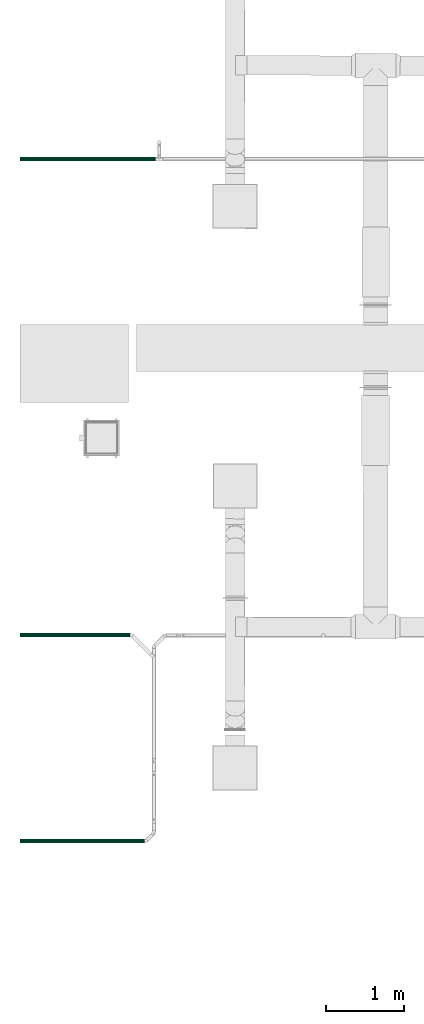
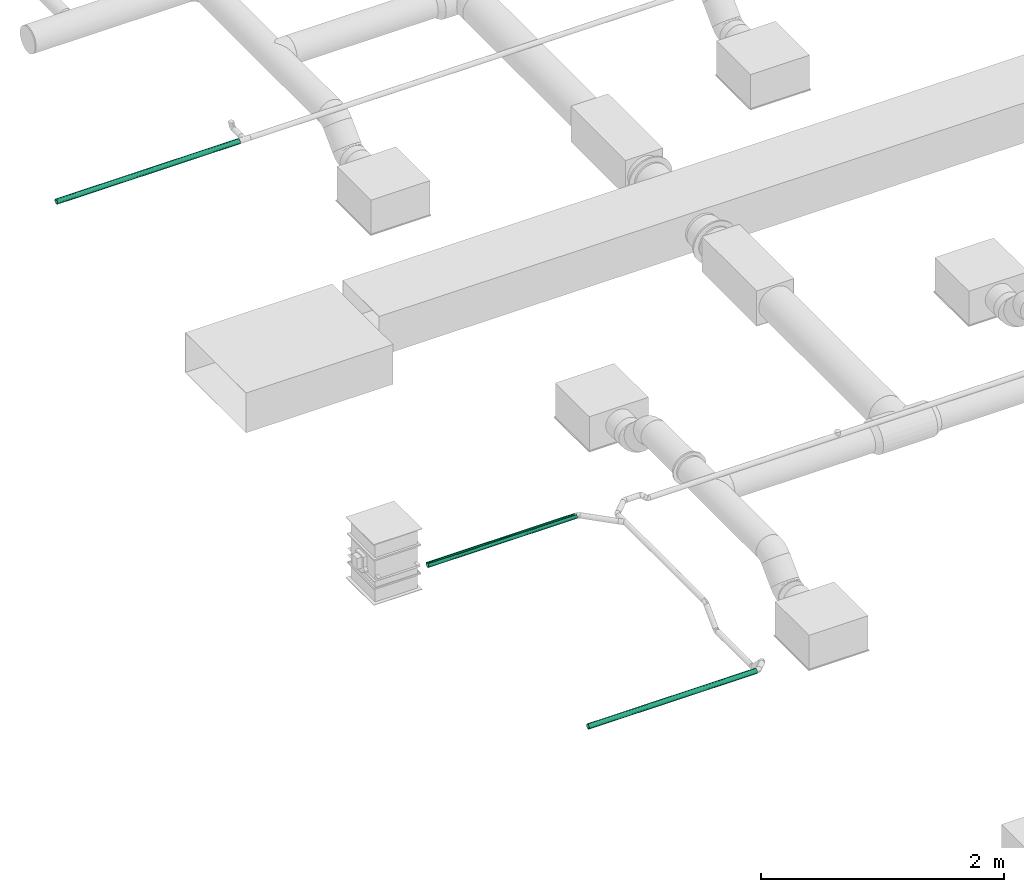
# One storey, part 51 of 63: 3 flow segments.
"""IFC2X3 building model written with IfcOpenShell, lengths in millimetres."""

from ifc_helpers import new_model, entity, si_unit, converted_unit, derived_unit, direction, frame, place, context, subcontext, project, spatial, faceted_brep, type_object, element, save


model = new_model("IFC2X3")

# Units and contexts
model_context = context("Model", 3, precision=0.01, world=frame((0.0, 4.29681676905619e-09, 0.0)), true_north=direction((4.01073788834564e-13, 1.0)))
plan_context = context("Plan", 3, precision=0.01, world=frame((0.0, 4.29681676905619e-09, 0.0)), true_north=direction((4.01073788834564e-13, 1.0)))
body_context = subcontext(model_context, "Body", "Model", "MODEL_VIEW")
ifc_project = project(units=[converted_unit("PLANEANGLEUNIT", "DEGREE", entity("IfcPositiveLengthMeasure", 0.0174532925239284), si_unit("PLANEANGLEUNIT", "RADIAN"), dimensions=[0, 0, 0, 0, 0, 0, 0]), si_unit("AREAUNIT", "SQUARE_METRE"), si_unit("LENGTHUNIT", "METRE", prefix="MILLI"), si_unit("MASSUNIT", "GRAM", prefix="KILO"), si_unit("POWERUNIT", "WATT"), si_unit("PRESSUREUNIT", "PASCAL"), si_unit("FORCEUNIT", "NEWTON", prefix="KILO"), si_unit("ELECTRICVOLTAGEUNIT", "VOLT"), si_unit("ELECTRICCURRENTUNIT", "AMPERE"), si_unit("THERMODYNAMICTEMPERATUREUNIT", "DEGREE_CELSIUS"), si_unit("TIMEUNIT", "SECOND"), si_unit("VOLUMEUNIT", "CUBIC_METRE"), derived_unit("LINEARVELOCITYUNIT", [(si_unit("LENGTHUNIT", "METRE"), 1), (si_unit("TIMEUNIT", "SECOND"), -1)]), derived_unit("VOLUMETRICFLOWRATEUNIT", [(si_unit("VOLUMEUNIT", "CUBIC_METRE"), 1), (si_unit("TIMEUNIT", "SECOND"), -1)]), derived_unit("THERMALTRANSMITTANCEUNIT", [(si_unit("POWERUNIT", "WATT"), 1), (si_unit("THERMODYNAMICTEMPERATUREUNIT", "KELVIN"), -1), (si_unit("AREAUNIT", "SQUARE_METRE"), -1)]), derived_unit("SOUNDPRESSUREUNIT", [(si_unit("PRESSUREUNIT", "PASCAL"), 1)])], contexts=[model_context, plan_context])

# Site, building, storey
site_placement = place(None, frame((0.0, -4.29681676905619e-09, 0.0), z_axis=(0.0, 0.0, 1.0), x_axis=(1.0, 0.0, 0.0)))
site = spatial("IfcSite", under=ifc_project, at=site_placement, CompositionType="ELEMENT")
building_placement = place(site_placement, frame((0.0, 4.29681676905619e-09, 0.0), z_axis=(0.0, 0.0, 1.0), x_axis=(1.0, 0.0, 0.0)))
building = spatial("IfcBuilding", under=site, at=building_placement, Name="mc-building", CompositionType="ELEMENT")
storey_placement = place(building_placement, frame((0.0, 0.0, 210900.0), z_axis=(0.0, 0.0, 1.0), x_axis=(1.0, 0.0, 0.0)))
storey = spatial("IfcBuildingStorey", under=building, at=storey_placement, Name="Nivå F", CompositionType="ELEMENT", Elevation=210900.0)

# Flow segments
duct_segment_type = type_object("IfcDuctSegmentType", Name="Sirkulær kanal", PredefinedType="RIGIDSEGMENT")
flow_segment_1_placement = place(storey_placement, frame((522280.0, 458590.0, 4425.0), z_axis=(0.0, 0.0, 1.0), x_axis=(-1.0, 0.0, 0.0)))
element("IfcFlowSegment", 1, at=flow_segment_1_placement, inside=storey, type_object=duct_segment_type, Name="Sirkulær kanal", context=body_context, shape_type="Brep", body=[
    faceted_brep([(1735.0124999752, 23.0, 0.0), (1735.0124999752, 22.6505783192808, -3.9939080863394), (0.0, 22.6505783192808, -3.9939080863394), (0.0, 23.0, 0.0), (1735.0124999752, 21.6129302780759, -7.8664632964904), (0.0, 21.6129302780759, -7.8664632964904), (1735.0124999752, 19.9185842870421, -11.5), (0.0, 19.9185842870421, -11.5), (1735.0124999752, 17.6190221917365, -14.7841150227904), (0.0, 17.6190221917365, -14.7841150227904), (1735.0124999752, 14.7841150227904, -17.6190221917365), (0.0, 14.7841150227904, -17.6190221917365), (1735.0124999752, 11.5, -19.9185842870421), (0.0, 11.5, -19.9185842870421), (1735.0124999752, 7.86646329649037, -21.6129302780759), (0.0, 7.86646329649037, -21.6129302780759), (1735.0124999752, 3.99390808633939, -22.6505783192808), (0.0, 3.99390808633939, -22.6505783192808), (1735.0124999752, -4.22503145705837e-15, -23.0), (0.0, -4.22503145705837e-15, -23.0), (1735.0124999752, -3.9939080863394, -22.6505783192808), (0.0, -3.9939080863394, -22.6505783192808), (1735.0124999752, -7.8664632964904, -21.6129302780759), (0.0, -7.8664632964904, -21.6129302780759), (1735.0124999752, -11.5, -19.9185842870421), (0.0, -11.5, -19.9185842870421), (1735.0124999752, -14.7841150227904, -17.6190221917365), (0.0, -14.7841150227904, -17.6190221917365), (1735.0124999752, -17.6190221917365, -14.7841150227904), (0.0, -17.6190221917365, -14.7841150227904), (1735.0124999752, -19.9185842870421, -11.5), (0.0, -19.9185842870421, -11.5), (1735.0124999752, -21.6129302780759, -7.86646329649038), (0.0, -21.6129302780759, -7.86646329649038), (1735.0124999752, -22.6505783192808, -3.99390808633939), (0.0, -22.6505783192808, -3.99390808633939), (1735.0124999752, -23.0, 2.81668763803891e-15), (0.0, -23.0, 2.81668763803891e-15), (1735.0124999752, -22.6505783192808, 3.99390808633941), (0.0, -22.6505783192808, 3.99390808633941), (1735.0124999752, -21.6129302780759, 7.86646329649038), (0.0, -21.6129302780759, 7.86646329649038), (1735.0124999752, -19.9185842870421, 11.5), (0.0, -19.9185842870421, 11.5), (1735.0124999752, -17.6190221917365, 14.7841150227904), (0.0, -17.6190221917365, 14.7841150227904), (1735.0124999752, -14.7841150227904, 17.6190221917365), (0.0, -14.7841150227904, 17.6190221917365), (1735.0124999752, -11.5, 19.9185842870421), (0.0, -11.5, 19.9185842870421), (1735.0124999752, -7.86646329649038, 21.6129302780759), (0.0, -7.86646329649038, 21.6129302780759), (1735.0124999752, -3.9939080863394, 22.6505783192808), (0.0, -3.9939080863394, 22.6505783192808), (1735.0124999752, 1.40834381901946e-15, 23.0), (0.0, 1.40834381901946e-15, 23.0), (1735.0124999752, 3.9939080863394, 22.6505783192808), (0.0, 3.9939080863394, 22.6505783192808), (1735.0124999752, 7.86646329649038, 21.6129302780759), (0.0, 7.86646329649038, 21.6129302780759), (1735.0124999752, 11.5, 19.9185842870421), (0.0, 11.5, 19.9185842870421), (1735.0124999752, 14.7841150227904, 17.6190221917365), (0.0, 14.7841150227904, 17.6190221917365), (1735.0124999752, 17.6190221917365, 14.7841150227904), (0.0, 17.6190221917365, 14.7841150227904), (1735.0124999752, 19.9185842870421, 11.5), (0.0, 19.9185842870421, 11.5), (1735.0124999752, 21.6129302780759, 7.86646329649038), (0.0, 21.6129302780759, 7.86646329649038), (1735.0124999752, 22.6505783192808, 3.9939080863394), (0.0, 22.6505783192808, 3.9939080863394), (1735.0124999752, 24.6201938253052, -4.34120444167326), (1735.0124999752, 25.0, 0.0), (0.0, 25.0, 0.0), (0.0, 24.6201938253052, -4.34120444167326), (1735.0124999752, 24.6201938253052, 4.34120444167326), (0.0, 24.6201938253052, 4.34120444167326), (1735.0124999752, 23.4923155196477, 8.55050358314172), (0.0, 23.4923155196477, 8.55050358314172), (1735.0124999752, 21.650635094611, 12.5), (0.0, 21.650635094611, 12.5), (1735.0124999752, 19.1511110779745, 16.0696902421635), (0.0, 19.1511110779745, 16.0696902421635), (1735.0124999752, 16.0696902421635, 19.1511110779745), (0.0, 16.0696902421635, 19.1511110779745), (1735.0124999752, 12.5, 21.650635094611), (0.0, 12.5, 21.650635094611), (1735.0124999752, 8.55050358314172, 23.4923155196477), (0.0, 8.55050358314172, 23.4923155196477), (1735.0124999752, 4.34120444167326, 24.6201938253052), (0.0, 4.34120444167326, 24.6201938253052), (1735.0124999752, 1.53080849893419e-15, 25.0), (0.0, 1.53080849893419e-15, 25.0), (1735.0124999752, -4.34120444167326, 24.6201938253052), (0.0, -4.34120444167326, 24.6201938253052), (1735.0124999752, -8.55050358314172, 23.4923155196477), (0.0, -8.55050358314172, 23.4923155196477), (1735.0124999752, -12.5, 21.650635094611), (0.0, -12.5, 21.650635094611), (1735.0124999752, -16.0696902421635, 19.1511110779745), (0.0, -16.0696902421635, 19.1511110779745), (1735.0124999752, -19.1511110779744, 16.0696902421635), (0.0, -19.1511110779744, 16.0696902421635), (1735.0124999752, -21.650635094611, 12.5), (0.0, -21.650635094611, 12.5), (1735.0124999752, -23.4923155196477, 8.55050358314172), (0.0, -23.4923155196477, 8.55050358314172), (1735.0124999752, -24.6201938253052, 4.34120444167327), (0.0, -24.6201938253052, 4.34120444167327), (1735.0124999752, -25.0, 3.06161699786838e-15), (0.0, -25.0, 3.06161699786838e-15), (1735.0124999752, -24.6201938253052, -4.34120444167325), (0.0, -24.6201938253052, -4.34120444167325), (1735.0124999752, -23.4923155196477, -8.55050358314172), (0.0, -23.4923155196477, -8.55050358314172), (1735.0124999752, -21.650635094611, -12.5), (0.0, -21.650635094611, -12.5), (1735.0124999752, -19.1511110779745, -16.0696902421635), (0.0, -19.1511110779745, -16.0696902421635), (1735.0124999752, -16.0696902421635, -19.1511110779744), (0.0, -16.0696902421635, -19.1511110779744), (1735.0124999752, -12.5, -21.650635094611), (0.0, -12.5, -21.650635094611), (1735.0124999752, -8.55050358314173, -23.4923155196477), (0.0, -8.55050358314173, -23.4923155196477), (1735.0124999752, -4.34120444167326, -24.6201938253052), (0.0, -4.34120444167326, -24.6201938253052), (1735.0124999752, -4.59242549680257e-15, -25.0), (0.0, -4.59242549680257e-15, -25.0), (1735.0124999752, 4.34120444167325, -24.6201938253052), (0.0, 4.34120444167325, -24.6201938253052), (1735.0124999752, 8.5505035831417, -23.4923155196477), (0.0, 8.5505035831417, -23.4923155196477), (1735.0124999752, 12.5, -21.650635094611), (0.0, 12.5, -21.650635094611), (1735.0124999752, 16.0696902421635, -19.1511110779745), (0.0, 16.0696902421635, -19.1511110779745), (1735.0124999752, 19.1511110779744, -16.0696902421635), (0.0, 19.1511110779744, -16.0696902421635), (1735.0124999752, 21.650635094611, -12.5), (0.0, 21.650635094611, -12.5), (1735.0124999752, 23.4923155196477, -8.55050358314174), (0.0, 23.4923155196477, -8.55050358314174)], [[[0, 1, 2, 3]], [[1, 4, 5, 2]], [[4, 6, 7, 5]], [[6, 8, 9, 7]], [[8, 10, 11, 9]], [[10, 12, 13, 11]], [[12, 14, 15, 13]], [[14, 16, 17, 15]], [[16, 18, 19, 17]], [[18, 20, 21, 19]], [[20, 22, 23, 21]], [[22, 24, 25, 23]], [[24, 26, 27, 25]], [[26, 28, 29, 27]], [[28, 30, 31, 29]], [[30, 32, 33, 31]], [[32, 34, 35, 33]], [[34, 36, 37, 35]], [[36, 38, 39, 37]], [[38, 40, 41, 39]], [[40, 42, 43, 41]], [[42, 44, 45, 43]], [[44, 46, 47, 45]], [[46, 48, 49, 47]], [[48, 50, 51, 49]], [[50, 52, 53, 51]], [[52, 54, 55, 53]], [[54, 56, 57, 55]], [[56, 58, 59, 57]], [[58, 60, 61, 59]], [[60, 62, 63, 61]], [[62, 64, 65, 63]], [[64, 66, 67, 65]], [[66, 68, 69, 67]], [[68, 70, 71, 69]], [[70, 0, 3, 71]], [[72, 73, 74, 75]], [[73, 76, 77, 74]], [[76, 78, 79, 77]], [[78, 80, 81, 79]], [[80, 82, 83, 81]], [[82, 84, 85, 83]], [[84, 86, 87, 85]], [[86, 88, 89, 87]], [[88, 90, 91, 89]], [[90, 92, 93, 91]], [[92, 94, 95, 93]], [[94, 96, 97, 95]], [[96, 98, 99, 97]], [[98, 100, 101, 99]], [[100, 102, 103, 101]], [[102, 104, 105, 103]], [[104, 106, 107, 105]], [[106, 108, 109, 107]], [[108, 110, 111, 109]], [[110, 112, 113, 111]], [[112, 114, 115, 113]], [[114, 116, 117, 115]], [[116, 118, 119, 117]], [[118, 120, 121, 119]], [[120, 122, 123, 121]], [[122, 124, 125, 123]], [[124, 126, 127, 125]], [[126, 128, 129, 127]], [[128, 130, 131, 129]], [[130, 132, 133, 131]], [[132, 134, 135, 133]], [[134, 136, 137, 135]], [[136, 138, 139, 137]], [[138, 140, 141, 139]], [[140, 142, 143, 141]], [[142, 72, 75, 143]], [[75, 74, 77, 79, 81, 83, 85, 87, 89, 91, 93, 95, 97, 99, 101, 103, 105, 107, 109, 111, 113, 115, 117, 119, 121, 123, 125, 127, 129, 131, 133, 135, 137, 139, 141, 143], [3, 2, 5, 7, 9, 11, 13, 15, 17, 19, 21, 23, 25, 27, 29, 31, 33, 35, 37, 39, 41, 43, 45, 47, 49, 51, 53, 55, 57, 59, 61, 63, 65, 67, 69, 71]], [[142, 140, 138, 136, 134, 132, 130, 128, 126, 124, 122, 120, 118, 116, 114, 112, 110, 108, 106, 104, 102, 100, 98, 96, 94, 92, 90, 88, 86, 84, 82, 80, 78, 76, 73, 72], [70, 68, 66, 64, 62, 60, 58, 56, 54, 52, 50, 48, 46, 44, 42, 40, 38, 36, 34, 32, 30, 28, 26, 24, 22, 20, 18, 16, 14, 12, 10, 8, 6, 4, 1, 0]]], orient=[[False], [False], [False], [False], [False], [False], [False], [False], [False], [False], [False], [False], [False], [False], [False], [False], [False], [False], [False], [False], [False], [False], [False], [False], [False], [False], [False], [False], [False], [False], [False], [False], [False], [False], [False], [False], [False], [False], [False], [False], [False], [False], [False], [False], [False], [False], [False], [False], [False], [False], [False], [False], [False], [False], [False], [False], [False], [False], [False], [False], [False], [False], [False], [False], [False], [False], [False], [False], [False], [False], [False], [False], [False, False], [False, False]]),
])
flow_segment_2_placement = place(storey_placement, frame((519215.74559, 452490.0, 4480.0), z_axis=(0.0, 0.0, 1.0), x_axis=(1.0, 0.0, 0.0)))
element("IfcFlowSegment", 2, at=flow_segment_2_placement, inside=storey, type_object=duct_segment_type, Name="Sirkulær kanal", context=body_context, shape_type="Brep", body=[
    faceted_brep([(1329.24191002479, 22.6505783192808, -3.9939080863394), (1329.24191002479, 23.0, 0.0), (2739.3, 23.0, 0.0), (2739.3, 22.6505783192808, -3.9939080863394), (1329.24191002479, 21.6129302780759, -7.8664632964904), (2739.3, 21.6129302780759, -7.8664632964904), (1329.24191002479, 19.9185842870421, -11.5), (2739.3, 19.9185842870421, -11.5), (1329.24191002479, 17.6190221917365, -14.7841150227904), (2739.3, 17.6190221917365, -14.7841150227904), (1329.24191002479, 14.7841150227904, -17.6190221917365), (2739.3, 14.7841150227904, -17.6190221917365), (1329.24191002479, 11.5, -19.9185842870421), (2739.3, 11.5, -19.9185842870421), (1329.24191002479, 7.86646329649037, -21.6129302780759), (2739.3, 7.86646329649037, -21.6129302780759), (1329.24191002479, 3.99390808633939, -22.6505783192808), (2739.3, 3.99390808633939, -22.6505783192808), (1329.24191002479, -4.22503145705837e-15, -23.0), (2739.3, -4.22503145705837e-15, -23.0), (1329.24191002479, -3.9939080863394, -22.6505783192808), (2739.3, -3.9939080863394, -22.6505783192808), (1329.24191002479, -7.8664632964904, -21.6129302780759), (2739.3, -7.8664632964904, -21.6129302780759), (1329.24191002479, -11.5, -19.9185842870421), (2739.3, -11.5, -19.9185842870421), (1329.24191002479, -14.7841150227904, -17.6190221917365), (2739.3, -14.7841150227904, -17.6190221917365), (1329.24191002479, -17.6190221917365, -14.7841150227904), (2739.3, -17.6190221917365, -14.7841150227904), (1329.24191002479, -19.9185842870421, -11.5), (2739.3, -19.9185842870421, -11.5), (1329.24191002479, -21.6129302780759, -7.86646329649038), (2739.3, -21.6129302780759, -7.86646329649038), (1329.24191002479, -22.6505783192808, -3.99390808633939), (2739.3, -22.6505783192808, -3.99390808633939), (1329.24191002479, -23.0, 2.81668763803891e-15), (2739.3, -23.0, 2.81668763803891e-15), (1329.24191002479, -22.6505783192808, 3.99390808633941), (2739.3, -22.6505783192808, 3.99390808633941), (1329.24191002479, -21.6129302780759, 7.86646329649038), (2739.3, -21.6129302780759, 7.86646329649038), (1329.24191002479, -19.9185842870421, 11.5), (2739.3, -19.9185842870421, 11.5), (1329.24191002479, -17.6190221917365, 14.7841150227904), (2739.3, -17.6190221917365, 14.7841150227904), (1329.24191002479, -14.7841150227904, 17.6190221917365), (2739.3, -14.7841150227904, 17.6190221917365), (1329.24191002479, -11.5, 19.9185842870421), (2739.3, -11.5, 19.9185842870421), (2739.3, -11.3254034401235, 20.0), (1329.24191002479, -12.4031372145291, 20.0), (1329.24191002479, 11.5, 19.9185842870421), (1329.24191002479, 11.3254034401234, 20.0), (2739.3, 11.3254034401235, 20.0), (2739.3, 11.5, 19.9185842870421), (1329.24191002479, 14.7841150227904, 17.6190221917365), (2739.3, 14.7841150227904, 17.6190221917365), (1329.24191002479, 17.6190221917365, 14.7841150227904), (2739.3, 17.6190221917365, 14.7841150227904), (1329.24191002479, 19.9185842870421, 11.5), (2739.3, 19.9185842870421, 11.5), (1329.24191002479, 21.6129302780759, 7.86646329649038), (2739.3, 21.6129302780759, 7.86646329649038), (1329.24191002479, 22.6505783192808, 3.9939080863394), (2739.3, 22.6505783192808, 3.9939080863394), (1329.24191002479, 25.0, 0.0), (1329.24191002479, 24.6201938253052, -4.34120444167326), (2739.3, 24.6201938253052, -4.34120444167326), (2739.3, 25.0, 0.0), (1329.24191002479, 24.6201938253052, 4.34120444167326), (2739.3, 24.6201938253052, 4.34120444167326), (1329.24191002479, 23.4923155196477, 8.55050358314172), (2739.3, 23.4923155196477, 8.55050358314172), (1329.24191002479, 21.650635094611, 12.5), (2739.3, 21.650635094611, 12.5), (1329.24191002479, 19.1511110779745, 16.0696902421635), (2739.3, 19.1511110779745, 16.0696902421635), (1329.24191002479, 16.0696902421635, 19.1511110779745), (2739.3, 16.0696902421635, 19.1511110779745), (2739.3, 14.8573512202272, 20.0), (1329.24191002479, 13.9668202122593, 20.0), (1329.24191002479, -16.0696902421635, 19.1511110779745), (1329.24191002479, -15.954969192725, 20.0), (2739.3, -14.8573512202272, 20.0), (2739.3, -16.0696902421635, 19.1511110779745), (1329.24191002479, -19.1511110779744, 16.0696902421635), (2739.3, -19.1511110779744, 16.0696902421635), (1329.24191002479, -21.650635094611, 12.5), (2739.3, -21.650635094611, 12.5), (1329.24191002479, -23.4923155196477, 8.55050358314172), (2739.3, -23.4923155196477, 8.55050358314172), (1329.24191002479, -24.6201938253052, 4.34120444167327), (2739.3, -24.6201938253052, 4.34120444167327), (1329.24191002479, -25.0, 3.06161699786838e-15), (2739.3, -25.0, 3.06161699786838e-15), (1329.24191002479, -24.6201938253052, -4.34120444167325), (2739.3, -24.6201938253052, -4.34120444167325), (1329.24191002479, -23.4923155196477, -8.55050358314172), (2739.3, -23.4923155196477, -8.55050358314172), (1329.24191002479, -21.650635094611, -12.5), (2739.3, -21.650635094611, -12.5), (1329.24191002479, -19.1511110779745, -16.0696902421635), (2739.3, -19.1511110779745, -16.0696902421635), (1329.24191002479, -16.0696902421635, -19.1511110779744), (2739.3, -16.0696902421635, -19.1511110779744), (1329.24191002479, -12.5, -21.650635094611), (2739.3, -12.5, -21.650635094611), (1329.24191002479, -8.55050358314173, -23.4923155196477), (2739.3, -8.55050358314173, -23.4923155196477), (1329.24191002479, -4.34120444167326, -24.6201938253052), (2739.3, -4.34120444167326, -24.6201938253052), (1329.24191002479, -4.59242549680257e-15, -25.0), (2739.3, -4.59242549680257e-15, -25.0), (1329.24191002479, 4.34120444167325, -24.6201938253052), (2739.3, 4.34120444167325, -24.6201938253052), (1329.24191002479, 8.5505035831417, -23.4923155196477), (2739.3, 8.5505035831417, -23.4923155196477), (1329.24191002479, 12.5, -21.650635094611), (2739.3, 12.5, -21.650635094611), (1329.24191002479, 16.0696902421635, -19.1511110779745), (2739.3, 16.0696902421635, -19.1511110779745), (1329.24191002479, 19.1511110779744, -16.0696902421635), (2739.3, 19.1511110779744, -16.0696902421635), (1329.24191002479, 21.650635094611, -12.5), (2739.3, 21.650635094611, -12.5), (1329.24191002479, 23.4923155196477, -8.55050358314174), (2739.3, 23.4923155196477, -8.55050358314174), (1329.24191002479, -14.8573512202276, 19.9999999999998), (1329.24191002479, 14.8573512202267, 20.0000000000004), (1329.24191002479, -11.3254034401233, 20.0000000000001)], [[[0, 1, 2, 3]], [[4, 0, 3, 5]], [[6, 4, 5, 7]], [[8, 6, 7, 9]], [[10, 8, 9, 11]], [[12, 10, 11, 13]], [[14, 12, 13, 15]], [[16, 14, 15, 17]], [[18, 16, 17, 19]], [[20, 18, 19, 21]], [[22, 20, 21, 23]], [[24, 22, 23, 25]], [[26, 24, 25, 27]], [[28, 26, 27, 29]], [[30, 28, 29, 31]], [[32, 30, 31, 33]], [[34, 32, 33, 35]], [[36, 34, 35, 37]], [[38, 36, 37, 39]], [[40, 38, 39, 41]], [[42, 40, 41, 43]], [[44, 42, 43, 45]], [[46, 44, 45, 47]], [[48, 46, 47, 49]], [[50, 51, 48, 49]], [[52, 53, 54, 55]], [[56, 52, 55, 57]], [[58, 56, 57, 59]], [[60, 58, 59, 61]], [[62, 60, 61, 63]], [[64, 62, 63, 65]], [[1, 64, 65, 2]], [[66, 67, 68, 69]], [[70, 66, 69, 71]], [[72, 70, 71, 73]], [[74, 72, 73, 75]], [[76, 74, 75, 77]], [[78, 76, 77, 79]], [[80, 81, 78, 79]], [[82, 83, 84, 85]], [[86, 82, 85, 87]], [[88, 86, 87, 89]], [[90, 88, 89, 91]], [[92, 90, 91, 93]], [[94, 92, 93, 95]], [[96, 94, 95, 97]], [[98, 96, 97, 99]], [[100, 98, 99, 101]], [[102, 100, 101, 103]], [[104, 102, 103, 105]], [[106, 104, 105, 107]], [[108, 106, 107, 109]], [[110, 108, 109, 111]], [[112, 110, 111, 113]], [[114, 112, 113, 115]], [[116, 114, 115, 117]], [[118, 116, 117, 119]], [[120, 118, 119, 121]], [[122, 120, 121, 123]], [[124, 122, 123, 125]], [[126, 124, 125, 127]], [[67, 126, 127, 68]], [[84, 50, 49, 47, 45, 43, 41, 39, 37, 35, 33, 31, 29, 27, 25, 23, 21, 19, 17, 15, 13, 11, 9, 7, 5, 3, 2, 65, 63, 61, 59, 57, 55, 54, 80, 79, 77, 75, 73, 71, 69, 68, 127, 125, 123, 121, 119, 117, 115, 113, 111, 109, 107, 105, 103, 101, 99, 97, 95, 93, 91, 89, 87, 85]], [[128, 82, 86, 88, 90, 92, 94, 96, 98, 100, 102, 104, 106, 108, 110, 112, 114, 116, 118, 120, 122, 124, 126, 67, 66, 70, 72, 74, 76, 78, 129, 53, 52, 56, 58, 60, 62, 64, 1, 0, 4, 6, 8, 10, 12, 14, 16, 18, 20, 22, 24, 26, 28, 30, 32, 34, 36, 38, 40, 42, 44, 46, 48, 130]], [[130, 50, 84, 128]], [[129, 80, 54, 53]]], orient=[[False], [False], [False], [False], [False], [False], [False], [False], [False], [False], [False], [False], [False], [False], [False], [False], [False], [False], [False], [False], [False], [False], [False], [False], [False], [False], [False], [False], [False], [False], [False], [False], [False], [False], [False], [False], [False], [False], [False], [False], [False], [False], [False], [False], [False], [False], [False], [False], [False], [False], [False], [False], [False], [False], [False], [False], [False], [False], [False], [False], [False], [False], [False], [False], [False], [False]]),
])
flow_segment_3_placement = place(storey_placement, frame((522140.29437, 449851.43695, 4458.79999999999), z_axis=(0.0, 0.0, 1.0), x_axis=(-1.0, 0.0, 0.0)))
element("IfcFlowSegment", 3, at=flow_segment_3_placement, inside=storey, type_object=duct_segment_type, Name="Sirkulær kanal", context=body_context, shape_type="Brep", body=[
    faceted_brep([(1595.30686997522, 23.0, 0.0), (1595.30686997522, 22.6505783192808, -3.9939080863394), (0.0, 22.6505783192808, -3.9939080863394), (0.0, 23.0, 0.0), (1595.30686997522, 21.6129302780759, -7.8664632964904), (0.0, 21.6129302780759, -7.8664632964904), (1595.30686997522, 19.9185842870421, -11.5), (0.0, 19.9185842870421, -11.5), (1595.30686997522, 17.6190221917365, -14.7841150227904), (0.0, 17.6190221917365, -14.7841150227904), (1595.30686997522, 14.7841150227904, -17.6190221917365), (0.0, 14.7841150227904, -17.6190221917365), (1595.30686997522, 11.5, -19.9185842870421), (0.0, 11.5, -19.9185842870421), (1595.30686997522, 7.86646329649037, -21.6129302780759), (0.0, 7.86646329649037, -21.6129302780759), (1595.30686997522, 3.99390808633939, -22.6505783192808), (0.0, 3.99390808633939, -22.6505783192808), (1595.30686997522, -4.22503145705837e-15, -23.0), (0.0, -4.22503145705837e-15, -23.0), (1595.30686997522, -3.9939080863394, -22.6505783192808), (0.0, -3.9939080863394, -22.6505783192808), (1595.30686997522, -7.86646329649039, -21.6129302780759), (0.0, -7.8664632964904, -21.6129302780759), (1595.30686997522, -11.5, -19.9185842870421), (0.0, -11.5, -19.9185842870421), (1595.30686997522, -14.7841150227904, -17.6190221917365), (0.0, -14.7841150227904, -17.6190221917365), (1595.30686997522, -17.6190221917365, -14.7841150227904), (0.0, -17.6190221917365, -14.7841150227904), (1595.30686997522, -19.9185842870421, -11.5), (0.0, -19.9185842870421, -11.5), (1595.30686997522, -21.6129302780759, -7.86646329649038), (0.0, -21.6129302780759, -7.86646329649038), (1595.30686997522, -22.6505783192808, -3.99390808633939), (0.0, -22.6505783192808, -3.99390808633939), (1595.30686997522, -23.0, 2.81668763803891e-15), (0.0, -23.0, 2.81668763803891e-15), (1595.30686997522, -22.6505783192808, 3.99390808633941), (0.0, -22.6505783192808, 3.99390808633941), (1595.30686997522, -21.6129302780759, 7.86646329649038), (0.0, -21.6129302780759, 7.86646329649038), (1595.30686997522, -19.9185842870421, 11.5), (0.0, -19.9185842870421, 11.5), (1595.30686997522, -17.6190221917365, 14.7841150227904), (0.0, -17.6190221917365, 14.7841150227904), (1595.30686997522, -14.7841150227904, 17.6190221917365), (0.0, -14.7841150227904, 17.6190221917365), (1595.30686997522, -11.5, 19.9185842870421), (0.0, -11.5, 19.9185842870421), (1595.30686997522, -7.86646329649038, 21.6129302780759), (0.0, -7.86646329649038, 21.6129302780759), (1595.30686997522, -3.9939080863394, 22.6505783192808), (0.0, -3.9939080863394, 22.6505783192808), (1595.30686997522, 1.40834381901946e-15, 23.0), (0.0, 1.40834381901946e-15, 23.0), (1595.30686997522, 3.9939080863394, 22.6505783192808), (0.0, 3.9939080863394, 22.6505783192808), (1595.30686997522, 7.86646329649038, 21.6129302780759), (0.0, 7.86646329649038, 21.6129302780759), (1595.30686997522, 11.5, 19.9185842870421), (0.0, 11.5, 19.9185842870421), (1595.30686997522, 14.7841150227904, 17.6190221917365), (0.0, 14.7841150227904, 17.6190221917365), (1595.30686997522, 17.6190221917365, 14.7841150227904), (0.0, 17.6190221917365, 14.7841150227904), (1595.30686997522, 19.9185842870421, 11.5), (0.0, 19.9185842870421, 11.5), (1595.30686997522, 21.6129302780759, 7.86646329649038), (0.0, 21.6129302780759, 7.86646329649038), (1595.30686997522, 22.6505783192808, 3.9939080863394), (0.0, 22.6505783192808, 3.9939080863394), (1595.30686997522, 24.6201938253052, -4.34120444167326), (1595.30686997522, 25.0, 0.0), (0.0, 25.0, 0.0), (0.0, 24.6201938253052, -4.34120444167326), (1595.30686997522, 24.6201938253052, 4.34120444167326), (0.0, 24.6201938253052, 4.34120444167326), (1595.30686997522, 23.4923155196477, 8.55050358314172), (0.0, 23.4923155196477, 8.55050358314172), (1595.30686997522, 21.650635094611, 12.5), (0.0, 21.650635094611, 12.5), (1595.30686997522, 19.1511110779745, 16.0696902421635), (0.0, 19.1511110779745, 16.0696902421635), (1595.30686997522, 16.0696902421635, 19.1511110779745), (0.0, 16.0696902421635, 19.1511110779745), (1595.30686997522, 12.5, 21.650635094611), (0.0, 12.5, 21.650635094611), (1595.30686997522, 8.55050358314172, 23.4923155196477), (0.0, 8.55050358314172, 23.4923155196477), (1595.30686997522, 4.34120444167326, 24.6201938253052), (0.0, 4.34120444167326, 24.6201938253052), (1595.30686997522, 1.53080849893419e-15, 25.0), (0.0, 1.53080849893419e-15, 25.0), (1595.30686997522, -4.34120444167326, 24.6201938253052), (0.0, -4.34120444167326, 24.6201938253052), (1595.30686997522, -8.55050358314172, 23.4923155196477), (0.0, -8.55050358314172, 23.4923155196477), (1595.30686997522, -12.5, 21.650635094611), (0.0, -12.5, 21.650635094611), (1595.30686997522, -16.0696902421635, 19.1511110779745), (0.0, -16.0696902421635, 19.1511110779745), (1595.30686997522, -19.1511110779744, 16.0696902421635), (0.0, -19.1511110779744, 16.0696902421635), (1595.30686997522, -21.650635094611, 12.5), (0.0, -21.650635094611, 12.5), (1595.30686997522, -23.4923155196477, 8.55050358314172), (0.0, -23.4923155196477, 8.55050358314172), (1595.30686997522, -24.6201938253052, 4.34120444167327), (0.0, -24.6201938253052, 4.34120444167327), (1595.30686997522, -25.0, 3.06161699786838e-15), (0.0, -25.0, 3.06161699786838e-15), (1595.30686997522, -24.6201938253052, -4.34120444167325), (0.0, -24.6201938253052, -4.34120444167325), (1595.30686997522, -23.4923155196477, -8.55050358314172), (0.0, -23.4923155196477, -8.55050358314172), (1595.30686997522, -21.650635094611, -12.5), (0.0, -21.650635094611, -12.5), (1595.30686997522, -19.1511110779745, -16.0696902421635), (0.0, -19.1511110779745, -16.0696902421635), (1595.30686997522, -16.0696902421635, -19.1511110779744), (0.0, -16.0696902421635, -19.1511110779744), (1595.30686997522, -12.5, -21.650635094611), (0.0, -12.5, -21.650635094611), (1595.30686997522, -8.55050358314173, -23.4923155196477), (0.0, -8.55050358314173, -23.4923155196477), (1595.30686997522, -4.34120444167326, -24.6201938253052), (0.0, -4.34120444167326, -24.6201938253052), (1595.30686997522, -4.59242549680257e-15, -25.0), (0.0, -4.59242549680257e-15, -25.0), (1595.30686997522, 4.34120444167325, -24.6201938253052), (0.0, 4.34120444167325, -24.6201938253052), (1595.30686997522, 8.5505035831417, -23.4923155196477), (0.0, 8.5505035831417, -23.4923155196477), (1595.30686997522, 12.5, -21.650635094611), (0.0, 12.5, -21.650635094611), (1595.30686997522, 16.0696902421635, -19.1511110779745), (0.0, 16.0696902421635, -19.1511110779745), (1595.30686997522, 19.1511110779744, -16.0696902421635), (0.0, 19.1511110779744, -16.0696902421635), (1595.30686997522, 21.650635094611, -12.5), (0.0, 21.650635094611, -12.5), (1595.30686997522, 23.4923155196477, -8.55050358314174), (0.0, 23.4923155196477, -8.55050358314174)], [[[0, 1, 2, 3]], [[1, 4, 5, 2]], [[4, 6, 7, 5]], [[6, 8, 9, 7]], [[8, 10, 11, 9]], [[10, 12, 13, 11]], [[12, 14, 15, 13]], [[14, 16, 17, 15]], [[16, 18, 19, 17]], [[18, 20, 21, 19]], [[20, 22, 23, 21]], [[22, 24, 25, 23]], [[24, 26, 27, 25]], [[26, 28, 29, 27]], [[28, 30, 31, 29]], [[30, 32, 33, 31]], [[32, 34, 35, 33]], [[34, 36, 37, 35]], [[36, 38, 39, 37]], [[38, 40, 41, 39]], [[40, 42, 43, 41]], [[42, 44, 45, 43]], [[44, 46, 47, 45]], [[46, 48, 49, 47]], [[48, 50, 51, 49]], [[50, 52, 53, 51]], [[52, 54, 55, 53]], [[54, 56, 57, 55]], [[56, 58, 59, 57]], [[58, 60, 61, 59]], [[60, 62, 63, 61]], [[62, 64, 65, 63]], [[64, 66, 67, 65]], [[66, 68, 69, 67]], [[68, 70, 71, 69]], [[70, 0, 3, 71]], [[72, 73, 74, 75]], [[73, 76, 77, 74]], [[76, 78, 79, 77]], [[78, 80, 81, 79]], [[80, 82, 83, 81]], [[82, 84, 85, 83]], [[84, 86, 87, 85]], [[86, 88, 89, 87]], [[88, 90, 91, 89]], [[90, 92, 93, 91]], [[92, 94, 95, 93]], [[94, 96, 97, 95]], [[96, 98, 99, 97]], [[98, 100, 101, 99]], [[100, 102, 103, 101]], [[102, 104, 105, 103]], [[104, 106, 107, 105]], [[106, 108, 109, 107]], [[108, 110, 111, 109]], [[110, 112, 113, 111]], [[112, 114, 115, 113]], [[114, 116, 117, 115]], [[116, 118, 119, 117]], [[118, 120, 121, 119]], [[120, 122, 123, 121]], [[122, 124, 125, 123]], [[124, 126, 127, 125]], [[126, 128, 129, 127]], [[128, 130, 131, 129]], [[130, 132, 133, 131]], [[132, 134, 135, 133]], [[134, 136, 137, 135]], [[136, 138, 139, 137]], [[138, 140, 141, 139]], [[140, 142, 143, 141]], [[142, 72, 75, 143]], [[75, 74, 77, 79, 81, 83, 85, 87, 89, 91, 93, 95, 97, 99, 101, 103, 105, 107, 109, 111, 113, 115, 117, 119, 121, 123, 125, 127, 129, 131, 133, 135, 137, 139, 141, 143], [3, 2, 5, 7, 9, 11, 13, 15, 17, 19, 21, 23, 25, 27, 29, 31, 33, 35, 37, 39, 41, 43, 45, 47, 49, 51, 53, 55, 57, 59, 61, 63, 65, 67, 69, 71]], [[142, 140, 138, 136, 134, 132, 130, 128, 126, 124, 122, 120, 118, 116, 114, 112, 110, 108, 106, 104, 102, 100, 98, 96, 94, 92, 90, 88, 86, 84, 82, 80, 78, 76, 73, 72], [70, 68, 66, 64, 62, 60, 58, 56, 54, 52, 50, 48, 46, 44, 42, 40, 38, 36, 34, 32, 30, 28, 26, 24, 22, 20, 18, 16, 14, 12, 10, 8, 6, 4, 1, 0]]], orient=[[False], [False], [False], [False], [False], [False], [False], [False], [False], [False], [False], [False], [False], [False], [False], [False], [False], [False], [False], [False], [False], [False], [False], [False], [False], [False], [False], [False], [False], [False], [False], [False], [False], [False], [False], [False], [False], [False], [False], [False], [False], [False], [False], [False], [False], [False], [False], [False], [False], [False], [False], [False], [False], [False], [False], [False], [False], [False], [False], [False], [False], [False], [False], [False], [False], [False], [False], [False], [False], [False], [False], [False], [False, False], [False, False]]),
])

save(model, "model.ifc")
